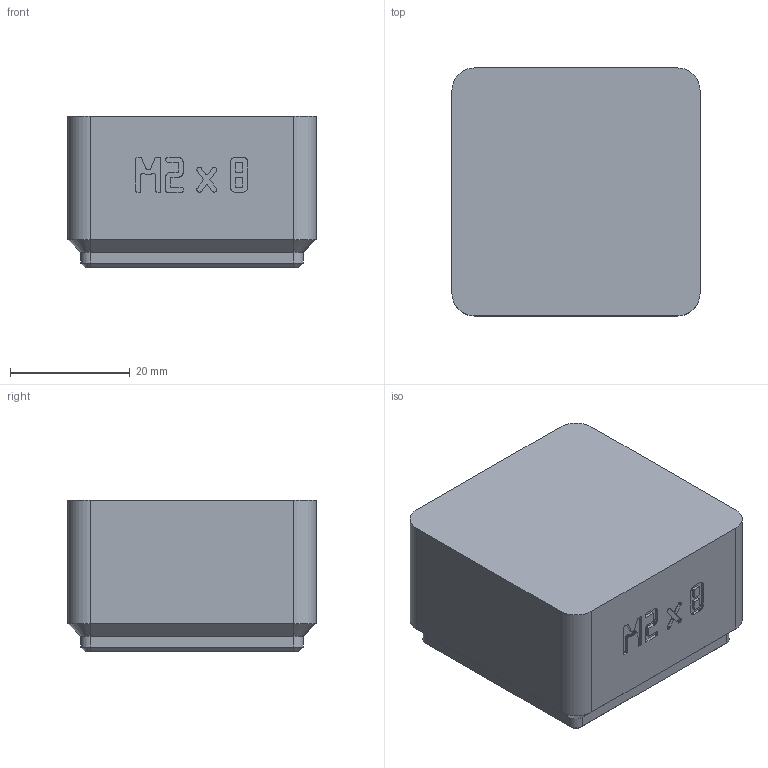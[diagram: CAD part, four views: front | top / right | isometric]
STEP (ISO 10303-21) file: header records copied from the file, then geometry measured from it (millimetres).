
FILE_DESCRIPTION(('Open CASCADE Model'),'2;1');
FILE_NAME('Open CASCADE Shape Model','2026-11-03T16:22:59',('Author'),( 'Open CASCADE'),'Open CASCADE STEP processor 8.0','build123d', 'Unknown');
FILE_SCHEMA(('AUTOMOTIVE_DESIGN { 1 0 10303 214 1 1 1 1 }'));
Products named in the file (1): COMPOUND
Bounding box: 41.5 x 41.5 x 25.4 mm (x, y, z)
Volume: 14686.5 mm3; surface area: 13517.8 mm2
Topology: 1 solids, 2 shells, 915 faces, 2654 edges, 1756 vertices
Faces by surface type: plane 879, cylinder 16, cone 12, bspline 8
Entity records: 63946 total; most frequent: CARTESIAN_POINT 10898, DIRECTION 9678, LINE 7758, VECTOR 7758, ORIENTED_EDGE 5308, PCURVE 5308, DEFINITIONAL_REPRESENTATION 5308, EDGE_CURVE 2654
